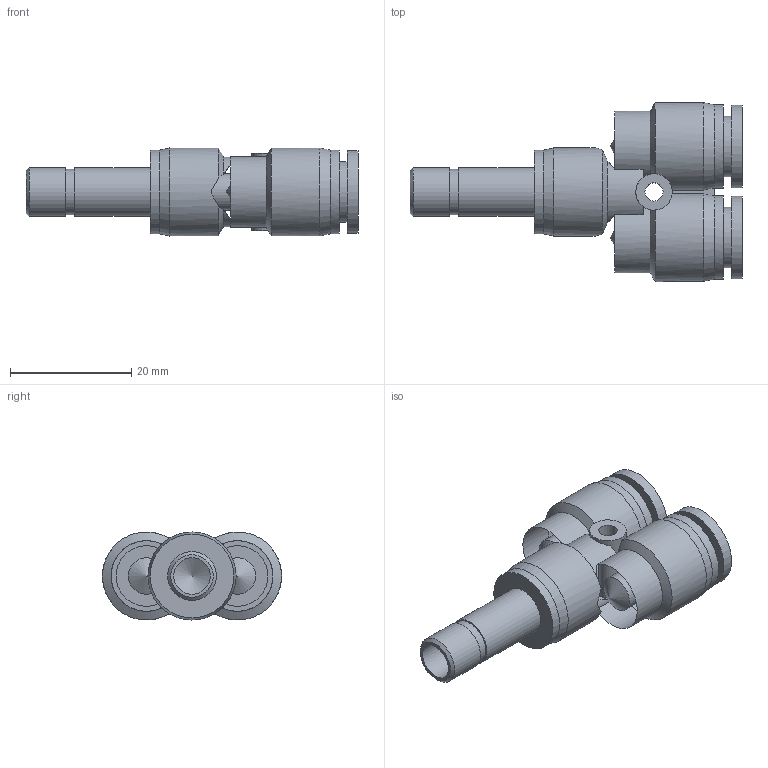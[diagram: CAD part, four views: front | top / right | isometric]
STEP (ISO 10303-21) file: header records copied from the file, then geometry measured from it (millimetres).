
FILE_DESCRIPTION((''),'2;1');
FILE_NAME('S:\UTecnico\ArchivioUT\Speciali Clienti\Speciali KONFIT\Plastica\RP\RP 91\RP911008.stp','2012-05-15T15:47:23',('UT5'),(''),'Autodesk Inventor 2012','Autodesk Inventor 2012','');
FILE_SCHEMA(('AUTOMOTIVE_DESIGN { 1 0 10303 214 1 1 1 1 }'));
Length unit declared in the file: millimetre
Products named in the file (1): RP911008
Bounding box: 54.7 x 29.5 x 14.5 mm (x, y, z)
Volume: 7103.4 mm3; surface area: 5172.8 mm2
Topology: 1 solids, 1 shells, 55 faces, 131 edges, 85 vertices
Faces by surface type: cylinder 23, plane 19, cone 13
Full cylindrical faces by diameter (mm): 3 x1, 6 x5, 7.5 x1, 8 x2, 10 x2, 13.6 x2, 13.8 x3, 14.5 x1
Entity records: 1635 total; most frequent: CARTESIAN_POINT 448, DIRECTION 238, ORIENTED_EDGE 196, AXIS2_PLACEMENT_3D 112, EDGE_CURVE 98, EDGE_LOOP 86, VERTEX_POINT 74, CIRCLE 56
